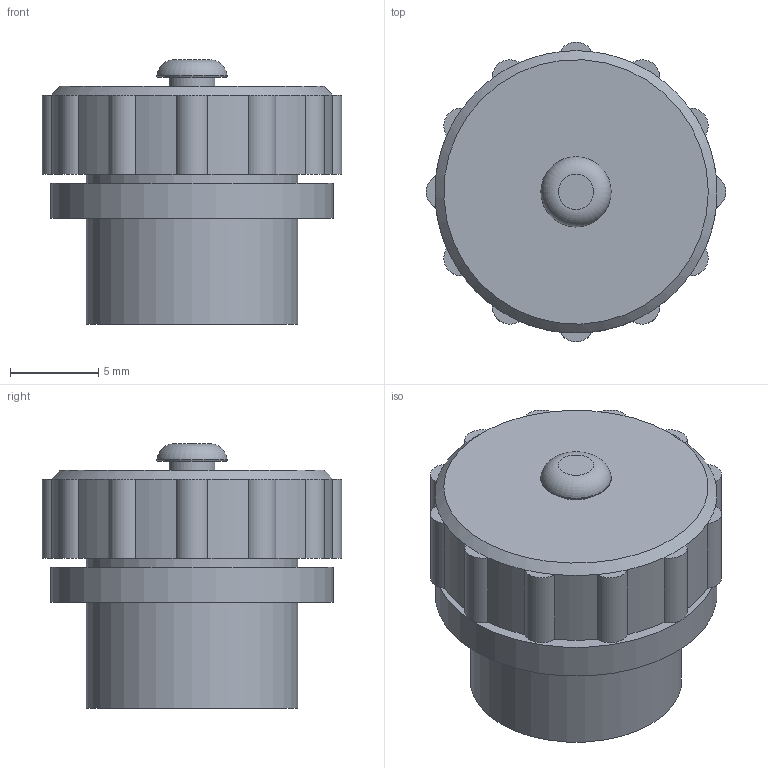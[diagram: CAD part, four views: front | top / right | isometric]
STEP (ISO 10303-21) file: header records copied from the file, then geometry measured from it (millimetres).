
FILE_DESCRIPTION(('FreeCAD Model'),'2;1');
FILE_NAME('Open CASCADE Shape Model','2023-05-06T18:44:57',('Author'),( ''),'Open CASCADE STEP processor 7.5','FreeCAD','Unknown');
FILE_SCHEMA(('AUTOMOTIVE_DESIGN { 1 0 10303 214 1 1 1 1 }'));
Length unit declared in the file: millimetre
Products named in the file (1): conncetcor&cap
Bounding box: 16.99 x 16.99 x 15 mm (x, y, z)
Volume: 1783 mm3; surface area: 1810.1 mm2
Topology: 2 solids, 2 shells, 57 faces, 114 edges, 68 vertices
Faces by surface type: cylinder 31, plane 23, torus 2, cone 1
Full cylindrical faces by diameter (mm): 2.6 x1, 9 x2, 12 x2, 12.4 x1, 16 x1
Entity records: 2085 total; most frequent: DIRECTION 296, CARTESIAN_POINT 226, ORIENTED_EDGE 204, AXIS2_PLACEMENT_3D 136, EDGE_CURVE 102, CIRCLE 78, EDGE_LOOP 74, FACE_OUTER_BOUND 66
